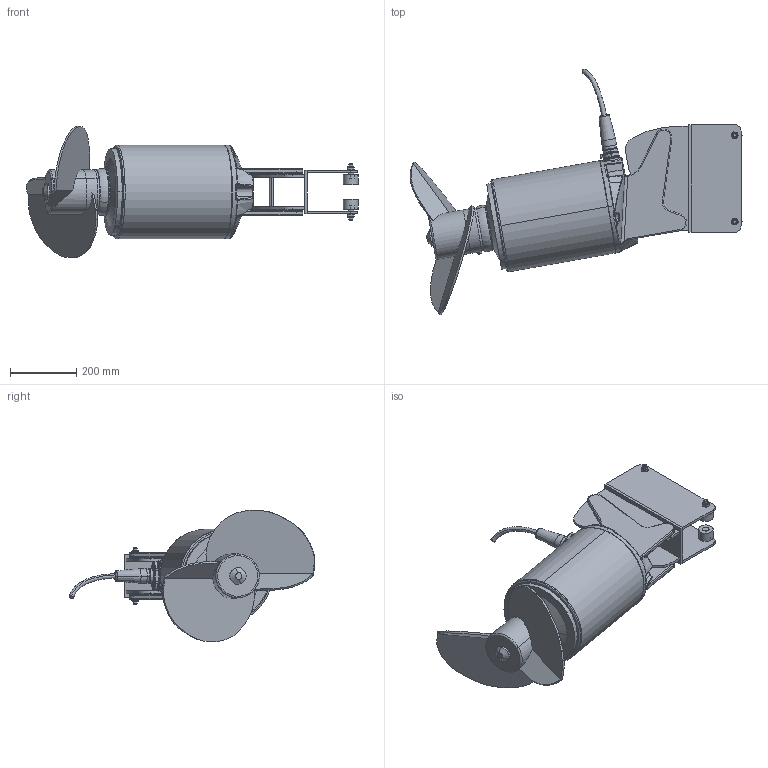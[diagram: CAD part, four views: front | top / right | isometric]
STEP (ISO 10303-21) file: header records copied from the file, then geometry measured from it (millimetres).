
FILE_DESCRIPTION (( 'STEP AP214' ), '1' );
FILE_NAME ('XRW480 Vkt.100 with vertical angle adjustment -10°_MSD.STEP', '2017-10-20T07:35:31', ( '' ), ( '' ), 'SwSTEP 2.0', 'SolidWorks 2017', '' );
FILE_SCHEMA (( 'AUTOMOTIVE_DESIGN' ));
Length unit declared in the file: millimetre
Products named in the file (1): XRW480 Vkt.100 with vertical angle adjustment -10°_MSD
Bounding box: 1000.05 x 739.9 x 396.21 mm (x, y, z)
Volume: 31538761.7 mm3; surface area: 1485638.1 mm2
Topology: 2 solids, 2 shells, 1051 faces, 2493 edges, 1498 vertices
Faces by surface type: plane 289, cylinder 221, bspline 204, torus 167, cone 144, sphere 26
Entity records: 55758 total; most frequent: CARTESIAN_POINT 21603, ORIENTED_EDGE 4958, DIRECTION 4397, EDGE_CURVE 2479, AXIS2_PLACEMENT_3D 1824, VERTEX_POINT 1498, EDGE_LOOP 1119, UNCERTAINTY_MEASURE_WITH_UNIT 1055
